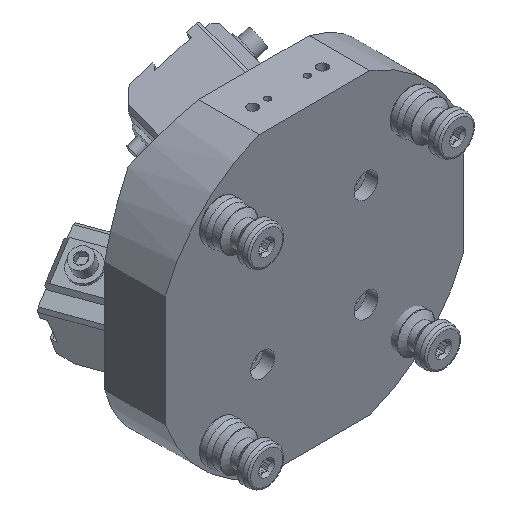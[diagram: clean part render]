
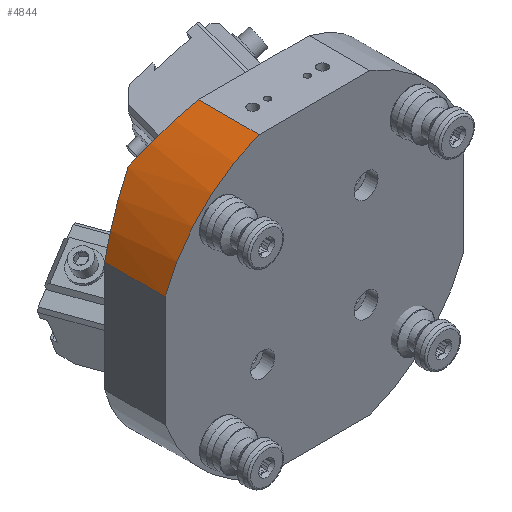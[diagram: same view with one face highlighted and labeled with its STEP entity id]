
A CAD part, isometric view. The second image highlights one B-rep face of the part: STEP entity #4844.
In plain terms, the highlighted cylindrical face has radius 80 mm (diameter 160 mm), a partial arc.
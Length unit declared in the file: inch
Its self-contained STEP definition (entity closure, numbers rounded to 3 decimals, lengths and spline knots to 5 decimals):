
#54 = ORIENTED_EDGE ( 'NONE', *, *, #2789, .F. ) ;
#488 = CARTESIAN_POINT ( 'NONE',  ( -2.22711, 1.1894, 2.22711 ) ) ;
#764 = DIRECTION ( 'NONE',  ( 0., 0., -1. ) ) ;
#1189 = ORIENTED_EDGE ( 'NONE', *, *, #2573, .T. ) ;
#1648 = AXIS2_PLACEMENT_3D ( 'NONE', #1732, #9536, #764 ) ;
#1732 = CARTESIAN_POINT ( 'NONE',  ( 0., 1.2279, 0. ) ) ;
#2165 = CARTESIAN_POINT ( 'NONE',  ( -2.22711, 1.1894, 2.22711 ) ) ;
#2447 = CYLINDRICAL_SURFACE ( 'NONE', #1648, 3.14961 ) ;
#2573 = EDGE_CURVE ( 'NONE', #3525, #5953, #2575, .T. ) ;
#2575 = LINE ( 'NONE', #6772, #5137 ) ;
#2603 = EDGE_LOOP ( 'NONE', ( #3001, #54, #1189, #7107, #10130 ) ) ;
#2674 = VERTEX_POINT ( 'NONE', #4669 ) ;
#2789 = EDGE_CURVE ( 'NONE', #3525, #3746, #8517, .T. ) ;
#3001 = ORIENTED_EDGE ( 'NONE', *, *, #6998, .F. ) ;
#3054 = CARTESIAN_POINT ( 'NONE',  ( -2.95276, 0.92528, 1.09602 ) ) ;
#3525 = VERTEX_POINT ( 'NONE', #8684 ) ;
#3611 = DIRECTION ( 'NONE',  ( 0., 0., -1. ) ) ;
#3746 = VERTEX_POINT ( 'NONE', #488 ) ;
#4615 = CARTESIAN_POINT ( 'NONE',  ( -1.09602, -0.27559, 2.95276 ) ) ;
#4669 = CARTESIAN_POINT ( 'NONE',  ( -1.09602, 0.92528, 2.95276 ) ) ;
#4844 = ADVANCED_FACE ( 'NONE', ( #11194 ), #2447, .T. ) ;
#5137 = VECTOR ( 'NONE', #10273, 39.37008 ) ;
#5361 = CIRCLE ( 'NONE', #9214, 3.14961 ) ;
#5377 = DIRECTION ( 'NONE',  ( 0., -1., 0. ) ) ;
#5381 = CARTESIAN_POINT ( 'NONE',  ( -1.52252, 0.9829, 2.79445 ) ) ;
#5550 = VECTOR ( 'NONE', #5377, 39.37008 ) ;
#5953 = VERTEX_POINT ( 'NONE', #10735 ) ;
#6297 = DIRECTION ( 'NONE',  ( 0., -1., 0. ) ) ;
#6304 = CARTESIAN_POINT ( 'NONE',  ( -2.22711, 1.1894, 2.22711 ) ) ;
#6772 = CARTESIAN_POINT ( 'NONE',  ( -2.95276, 1.2279, 1.09602 ) ) ;
#6998 = EDGE_CURVE ( 'NONE', #3746, #2674, #10553, .T. ) ;
#7107 = ORIENTED_EDGE ( 'NONE', *, *, #10582, .F. ) ;
#8004 = CARTESIAN_POINT ( 'NONE',  ( -1.90542, 1.07232, 2.54879 ) ) ;
#8063 = CARTESIAN_POINT ( 'NONE',  ( 0., -0.27559, 0. ) ) ;
#8084 = VERTEX_POINT ( 'NONE', #4615 ) ;
#8517 =( BOUNDED_CURVE ( )  B_SPLINE_CURVE ( 3, ( #3054, #9083, #8589, #2165 ),
 .UNSPECIFIED., .F., .F. ) 
 B_SPLINE_CURVE_WITH_KNOTS ( ( 4, 4 ),
 ( 0.35542, 0.7854 ),
 .UNSPECIFIED. ) 
 CURVE ( )  GEOMETRIC_REPRESENTATION_ITEM ( )  RATIONAL_B_SPLINE_CURVE ( ( 1., 0.985, 0.985, 1. ) ) 
 REPRESENTATION_ITEM ( '' )  );
#8589 = CARTESIAN_POINT ( 'NONE',  ( -2.54879, 1.07232, 1.90542 ) ) ;
#8684 = CARTESIAN_POINT ( 'NONE',  ( -2.95276, 0.92528, 1.09602 ) ) ;
#8886 = CARTESIAN_POINT ( 'NONE',  ( -1.09602, 0.92528, 2.95276 ) ) ;
#9006 = LINE ( 'NONE', #9848, #5550 ) ;
#9083 = CARTESIAN_POINT ( 'NONE',  ( -2.79445, 0.9829, 1.52252 ) ) ;
#9214 = AXIS2_PLACEMENT_3D ( 'NONE', #8063, #6297, #3611 ) ;
#9536 = DIRECTION ( 'NONE',  ( 0., -1., 0. ) ) ;
#9848 = CARTESIAN_POINT ( 'NONE',  ( -1.09602, 1.2279, 2.95276 ) ) ;
#10130 = ORIENTED_EDGE ( 'NONE', *, *, #10634, .F. ) ;
#10273 = DIRECTION ( 'NONE',  ( 0., -1., 0. ) ) ;
#10553 =( BOUNDED_CURVE ( )  B_SPLINE_CURVE ( 3, ( #6304, #8004, #5381, #8886 ),
 .UNSPECIFIED., .F., .F. ) 
 B_SPLINE_CURVE_WITH_KNOTS ( ( 4, 4 ),
 ( 5.49779, 5.92776 ),
 .UNSPECIFIED. ) 
 CURVE ( )  GEOMETRIC_REPRESENTATION_ITEM ( )  RATIONAL_B_SPLINE_CURVE ( ( 1., 0.985, 0.985, 1. ) ) 
 REPRESENTATION_ITEM ( '' )  );
#10582 = EDGE_CURVE ( 'NONE', #8084, #5953, #5361, .T. ) ;
#10634 = EDGE_CURVE ( 'NONE', #2674, #8084, #9006, .T. ) ;
#10735 = CARTESIAN_POINT ( 'NONE',  ( -2.95276, -0.27559, 1.09602 ) ) ;
#11194 = FACE_OUTER_BOUND ( 'NONE', #2603, .T. ) ;
